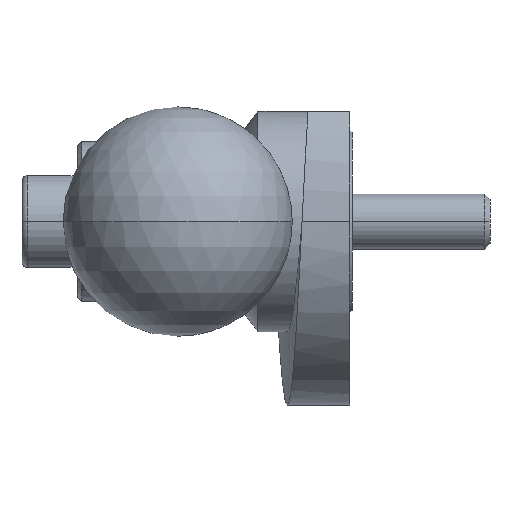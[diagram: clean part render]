
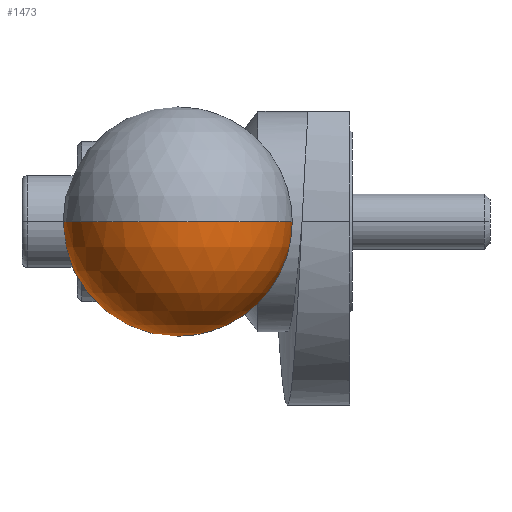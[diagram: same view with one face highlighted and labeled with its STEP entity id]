
A CAD part, left-side view. The second image highlights one B-rep face of the part: STEP entity #1473.
In plain terms, the highlighted spherical face has radius 12.5 mm.
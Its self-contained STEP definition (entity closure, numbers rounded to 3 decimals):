
#102 = CIRCLE ( 'NONE', #270, 12.5 ) ;
#127 = DIRECTION ( 'NONE',  ( 1., 0., 0. ) ) ;
#194 = DIRECTION ( 'NONE',  ( 0., 0., 1. ) ) ;
#268 = AXIS2_PLACEMENT_3D ( 'NONE', #823, #488, #1748 ) ;
#270 = AXIS2_PLACEMENT_3D ( 'NONE', #1585, #194, #1613 ) ;
#299 = AXIS2_PLACEMENT_3D ( 'NONE', #605, #1356, #431 ) ;
#314 = VERTEX_POINT ( 'NONE', #894 ) ;
#431 = DIRECTION ( 'NONE',  ( 0., -1., 0. ) ) ;
#468 = EDGE_CURVE ( 'NONE', #1069, #314, #1241, .T. ) ;
#488 = DIRECTION ( 'NONE',  ( 0., 0., -1. ) ) ;
#539 = EDGE_LOOP ( 'NONE', ( #1763, #593, #786 ) ) ;
#548 = AXIS2_PLACEMENT_3D ( 'NONE', #938, #127, #2010 ) ;
#593 = ORIENTED_EDGE ( 'NONE', *, *, #468, .T. ) ;
#605 = CARTESIAN_POINT ( 'NONE',  ( -87.5, 8.75, 0. ) ) ;
#686 = VERTEX_POINT ( 'NONE', #1361 ) ;
#733 = FACE_OUTER_BOUND ( 'NONE', #539, .T. ) ;
#786 = ORIENTED_EDGE ( 'NONE', *, *, #1433, .F. ) ;
#823 = CARTESIAN_POINT ( 'NONE',  ( -87.5, 8.75, 0. ) ) ;
#894 = CARTESIAN_POINT ( 'NONE',  ( -77.5, 16.25, 0. ) ) ;
#915 = CIRCLE ( 'NONE', #548, 7.5 ) ;
#938 = CARTESIAN_POINT ( 'NONE',  ( -77.5, 8.75, 0. ) ) ;
#1037 = CARTESIAN_POINT ( 'NONE',  ( -100., 8.75, 0. ) ) ;
#1069 = VERTEX_POINT ( 'NONE', #1037 ) ;
#1241 = CIRCLE ( 'NONE', #268, 12.5 ) ;
#1260 = EDGE_CURVE ( 'NONE', #1069, #686, #102, .T. ) ;
#1356 = DIRECTION ( 'NONE',  ( 0., 0., -1. ) ) ;
#1361 = CARTESIAN_POINT ( 'NONE',  ( -77.5, 1.25, 0. ) ) ;
#1433 = EDGE_CURVE ( 'NONE', #686, #314, #915, .T. ) ;
#1473 = ADVANCED_FACE ( 'NONE', ( #733 ), #1545, .T. ) ;
#1545 = SPHERICAL_SURFACE ( 'NONE', #299, 12.5 ) ;
#1585 = CARTESIAN_POINT ( 'NONE',  ( -87.5, 8.75, 0. ) ) ;
#1613 = DIRECTION ( 'NONE',  ( 1., 0., 0. ) ) ;
#1748 = DIRECTION ( 'NONE',  ( 0., 1., 0. ) ) ;
#1763 = ORIENTED_EDGE ( 'NONE', *, *, #1260, .F. ) ;
#2010 = DIRECTION ( 'NONE',  ( 0., 1., 0. ) ) ;
